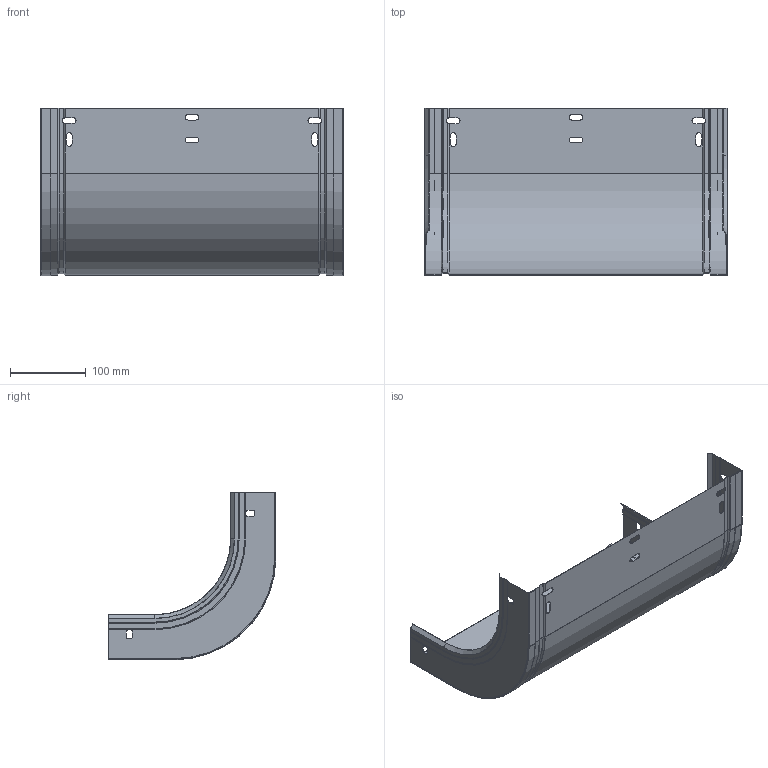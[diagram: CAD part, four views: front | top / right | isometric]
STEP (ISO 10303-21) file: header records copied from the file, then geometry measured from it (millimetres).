
FILE_DESCRIPTION (( 'STEP AP203' ), '1' );
FILE_NAME ('ERE_CONCAVA 400x60.step', '2023-07-27T18:53:45', ( '' ), ( '' ), 'SwSTEP 2.0', 'SolidWorks 2022', '' );
FILE_SCHEMA (( 'CONFIG_CONTROL_DESIGN' ));
Length unit declared in the file: millimetre
Products named in the file (3): ERE_LATERAL CC_60; ERE_CONCAVA 400x60; ERE_BASE CC_400x60
Assembly tree (3 placements, depth 2):
  ERE_CONCAVA 400x60
    ERE_BASE CC_400x60
    ERE_LATERAL CC_60  x2
Bounding box: 400 x 222 x 222 mm (x, y, z)
Volume: 164209.8 mm3; surface area: 413633 mm2
Topology: 3 solids, 3 shells, 234 faces, 642 edges, 402 vertices
Faces by surface type: plane 146, cylinder 62, cone 22, torus 4
Entity records: 6006 total; most frequent: CARTESIAN_POINT 1036, ORIENTED_EDGE 988, DIRECTION 969, EDGE_CURVE 494, LINE 353, VECTOR 353, VERTEX_POINT 311, AXIS2_PLACEMENT_3D 308
